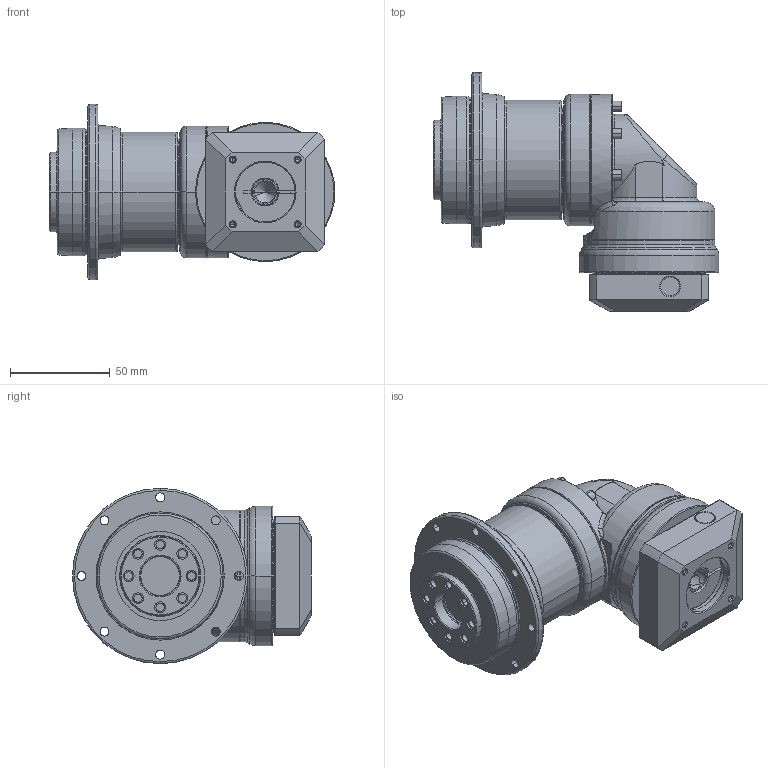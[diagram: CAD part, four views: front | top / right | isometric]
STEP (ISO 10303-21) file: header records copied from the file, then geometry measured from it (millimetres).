
FILE_DESCRIPTION((''),'2;1');
FILE_NAME('PDR064_2ST_11-P0411200101_ASM','2016-06-06T',('d01943'),(''),'PRO/ENGINEER BY PARAMETRIC TECHNOLOGY CORPORATION, 2008410','PRO/ENGINEER BY PARAMETRIC TECHNOLOGY CORPORATION, 2008410','');
FILE_SCHEMA(('CONFIG_CONTROL_DESIGN'));
Length unit declared in the file: millimetre
Products named in the file (10): P1355200001; P0367200001; P0275200001; P1349200001; P1017200001; P1350200101; P0411200101; P0503200005; P0713200101; PDR064_2ST_11-P0411200101_ASM
Assembly tree (9 placements, depth 2):
  PDR064_2ST_11-P0411200101_ASM
    P1355200001
    P0367200001
    P0275200001
    P1349200001
    P1017200001
    P1350200101
    P0411200101
    P0503200005
    P0713200101
Bounding box: 143.5 x 120 x 88 mm (x, y, z)
Volume: 454197.8 mm3; surface area: 108642.4 mm2
Topology: 9 solids, 9 shells, 559 faces, 1257 edges, 738 vertices
Faces by surface type: cylinder 193, cone 158, plane 92, torus 86, bspline 30
Entity records: 18261 total; most frequent: CARTESIAN_POINT 5543, DIRECTION 2846, ORIENTED_EDGE 2446, EDGE_CURVE 1223, AXIS2_PLACEMENT_3D 1217, VERTEX_POINT 738, CIRCLE 669, EDGE_LOOP 659
